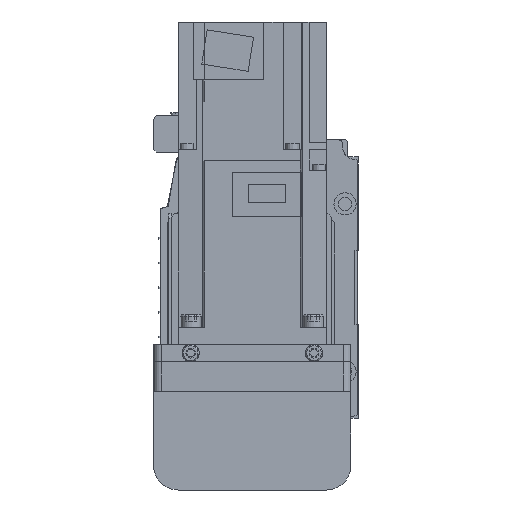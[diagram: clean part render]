
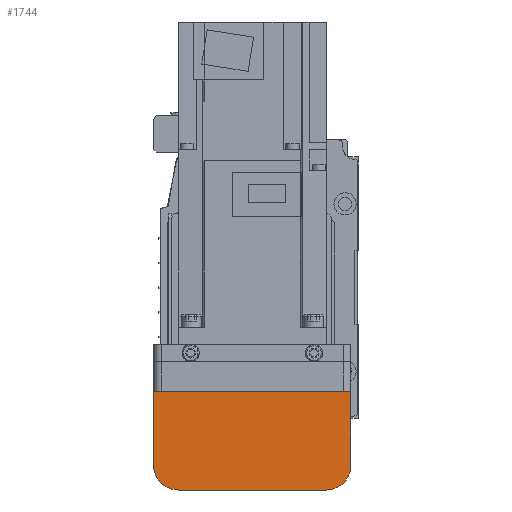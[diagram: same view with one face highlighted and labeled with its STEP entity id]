
A CAD part, left-side view. The second image highlights one B-rep face of the part: STEP entity #1744.
In plain terms, the highlighted planar face has unit normal (-1, 0, 0).
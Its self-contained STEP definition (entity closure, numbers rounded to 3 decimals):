
#1744 = ADVANCED_FACE( '', ( #3835 ), #3836, .F. );
#3835 = FACE_OUTER_BOUND( '', #6347, .T. );
#3836 = PLANE( '', #6348 );
#6347 = EDGE_LOOP( '', ( #11009, #11010, #11011, #11012, #11013, #11014 ) );
#6348 = AXIS2_PLACEMENT_3D( '', #11015, #11016, #11017 );
#11009 = ORIENTED_EDGE( '', *, *, #15828, .F. );
#11010 = ORIENTED_EDGE( '', *, *, #15431, .F. );
#11011 = ORIENTED_EDGE( '', *, *, #15781, .F. );
#11012 = ORIENTED_EDGE( '', *, *, #14776, .F. );
#11013 = ORIENTED_EDGE( '', *, *, #14348, .F. );
#11014 = ORIENTED_EDGE( '', *, *, #14563, .F. );
#11015 = CARTESIAN_POINT( '', ( -192., 37., 7. ) );
#11016 = DIRECTION( '', ( 1., 0., 0. ) );
#11017 = DIRECTION( '', ( 0., 0., -1. ) );
#14348 = EDGE_CURVE( '', #17100, #17102, #17103, .T. );
#14563 = EDGE_CURVE( '', #17472, #17100, #17474, .T. );
#14776 = EDGE_CURVE( '', #17102, #17829, #17830, .T. );
#15431 = EDGE_CURVE( '', #18853, #18855, #18856, .T. );
#15781 = EDGE_CURVE( '', #17829, #18853, #19358, .T. );
#15828 = EDGE_CURVE( '', #18855, #17472, #19422, .T. );
#17100 = VERTEX_POINT( '', #21017 );
#17102 = VERTEX_POINT( '', #21020 );
#17103 = CIRCLE( '', #21021, 10. );
#17472 = VERTEX_POINT( '', #21533 );
#17474 = LINE( '', #21536, #21537 );
#17829 = VERTEX_POINT( '', #21999 );
#17830 = LINE( '', #22000, #22001 );
#18853 = VERTEX_POINT( '', #23355 );
#18855 = VERTEX_POINT( '', #23358 );
#18856 = LINE( '', #23359, #23360 );
#19358 = CIRCLE( '', #24036, 10. );
#19422 = LINE( '', #24119, #24120 );
#21017 = CARTESIAN_POINT( '', ( -192., -40., -42. ) );
#21020 = CARTESIAN_POINT( '', ( -192., -30., -52. ) );
#21021 = AXIS2_PLACEMENT_3D( '', #25705, #25706, #25707 );
#21533 = CARTESIAN_POINT( '', ( -192., -40., -12.1 ) );
#21536 = CARTESIAN_POINT( '', ( -192., -40., -12.1 ) );
#21537 = VECTOR( '', #25942, 1000. );
#21999 = CARTESIAN_POINT( '', ( -192., 30., -52. ) );
#22000 = CARTESIAN_POINT( '', ( -192., -30., -52. ) );
#22001 = VECTOR( '', #26233, 1000. );
#23355 = CARTESIAN_POINT( '', ( -192., 40., -42. ) );
#23358 = CARTESIAN_POINT( '', ( -192., 40., -12.1 ) );
#23359 = CARTESIAN_POINT( '', ( -192., 40., -42. ) );
#23360 = VECTOR( '', #27043, 1000. );
#24036 = AXIS2_PLACEMENT_3D( '', #27464, #27465, #27466 );
#24119 = CARTESIAN_POINT( '', ( -192., 50., -12.1 ) );
#24120 = VECTOR( '', #27516, 1000. );
#25705 = CARTESIAN_POINT( '', ( -192., -30., -42. ) );
#25706 = DIRECTION( '', ( 1., 0., 0. ) );
#25707 = DIRECTION( '', ( 0., 0., -1. ) );
#25942 = DIRECTION( '', ( 0., 0., -1. ) );
#26233 = DIRECTION( '', ( 0., 1., 0. ) );
#27043 = DIRECTION( '', ( 0., 0., 1. ) );
#27464 = CARTESIAN_POINT( '', ( -192., 30., -42. ) );
#27465 = DIRECTION( '', ( 1., 0., 0. ) );
#27466 = DIRECTION( '', ( 0., 0., -1. ) );
#27516 = DIRECTION( '', ( 0., -1., 0. ) );
